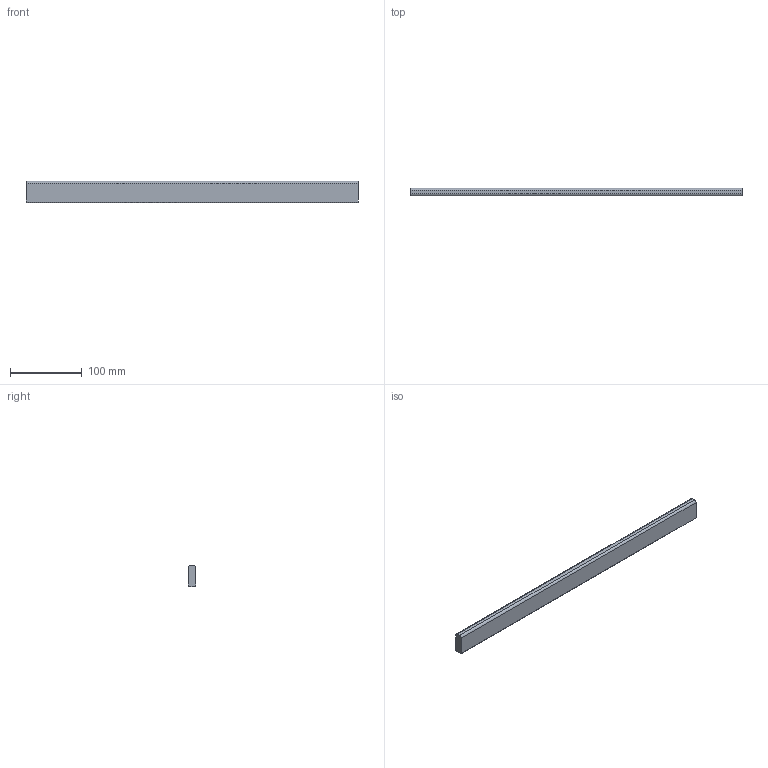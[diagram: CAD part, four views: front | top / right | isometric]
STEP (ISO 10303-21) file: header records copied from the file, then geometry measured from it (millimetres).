
FILE_DESCRIPTION (( 'STEP AP214' ), '1' );
FILE_NAME ('_Querreling_KAB-550_KS-16.step', '2010-08-26T14:59:01', ( 'grass' ), ( '' ), 'SwSTEP 2.0', 'SolidWorks 2009', '' );
FILE_SCHEMA (( 'AUTOMOTIVE_DESIGN' ));
Length unit declared in the file: millimetre
Products named in the file (1): _Querreling_KAB-550_KS-16
Bounding box: 462.5 x 10.5 x 30 mm (x, y, z)
Volume: 143702.4 mm3; surface area: 36495.9 mm2
Topology: 1 solids, 1 shells, 10 faces, 24 edges, 16 vertices
Faces by surface type: plane 6, cylinder 4
Entity records: 330 total; most frequent: DIRECTION 54, CARTESIAN_POINT 51, ORIENTED_EDGE 48, EDGE_CURVE 24, AXIS2_PLACEMENT_3D 19, VECTOR 16, LINE 16, VERTEX_POINT 16
